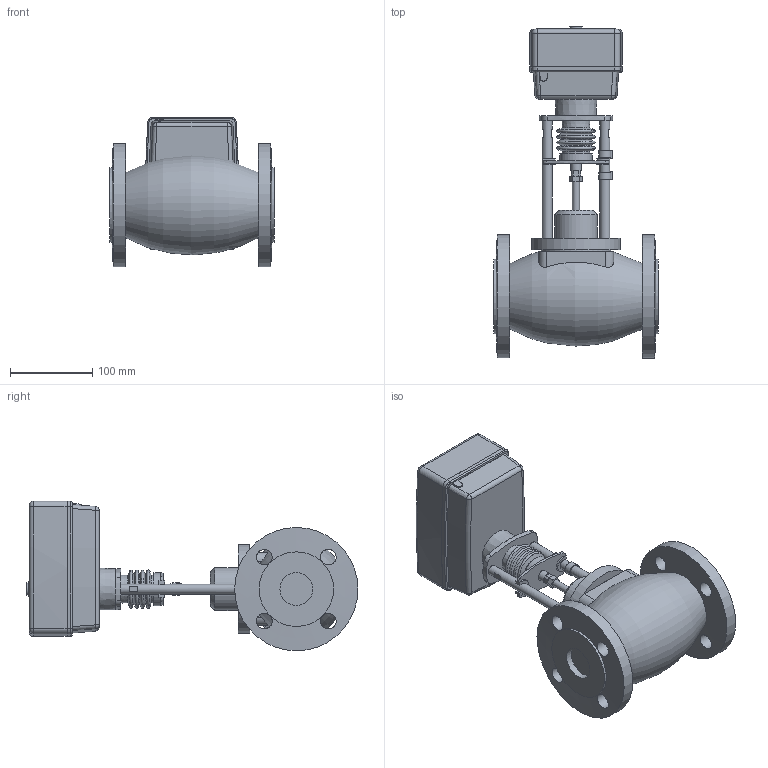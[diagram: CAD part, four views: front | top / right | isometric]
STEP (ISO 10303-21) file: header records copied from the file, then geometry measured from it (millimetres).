
FILE_DESCRIPTION(/* description */ ('Unknown'),/* implementation_level */ '2;1');
FILE_NAME(/* name */ 'Клапан TRV-040-101',/* time_stamp */ '2021-12-06T16:09:20+03:00',/* author */ ('Unknown'),/* organization */ ('Unknown'),/* preprocessor_version */ 'ST-DEVELOPER v16.7',/* originating_system */ 'DEX',/* authorisation */ $);
FILE_SCHEMA (('AUTOMOTIVE_DESIGN {1 0 10303 214 3 1 1}'));
Length unit declared in the file: millimetre
Products named in the file (1): 抔黽鳧 TRV-040-101
Bounding box: 200 x 403.9 x 181.96 mm (x, y, z)
Volume: 3868630.1 mm3; surface area: 269793.6 mm2
Topology: 1 solids, 1 shells, 298 faces, 766 edges, 487 vertices
Faces by surface type: plane 153, cylinder 77, torus 32, cone 26, bspline 6, sphere 4
Full cylindrical faces by diameter (mm): 8.644 x1, 12.002 x4, 13 x1, 15 x1, 19 x8, 33.4 x1, 39.9 x2, 40 x1, 52 x1, 84.943 x1, 90.788 x2, 108 x1, 150 x2
Entity records: 11077 total; most frequent: CARTESIAN_POINT 2025, DIRECTION 1475, ORIENTED_EDGE 1360, EDGE_CURVE 680, AXIS2_PLACEMENT_3D 572, VERTEX_POINT 455, EDGE_LOOP 393, FACE_BOUND 393
